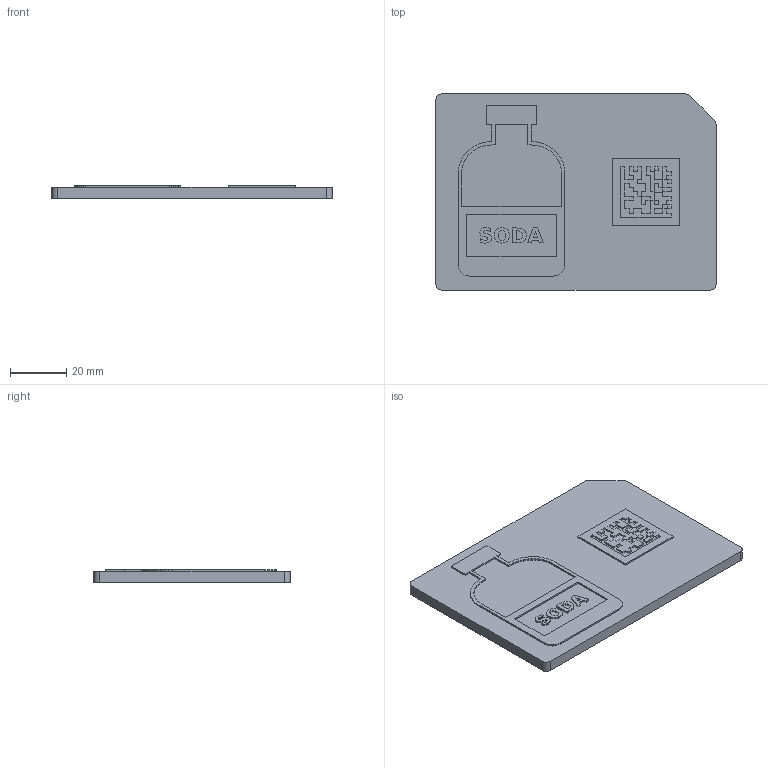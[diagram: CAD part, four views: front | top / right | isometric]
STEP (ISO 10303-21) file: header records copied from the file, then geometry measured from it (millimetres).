
FILE_DESCRIPTION(('Open CASCADE Model'),'2;1');
FILE_NAME('Open CASCADE Shape Model','2026-10-14T18:09:57',('Author'),( 'Open CASCADE'),'Open CASCADE STEP processor 7.9','Open CASCADE 7.9' ,'Unknown');
FILE_SCHEMA(('AUTOMOTIVE_DESIGN { 1 0 10303 214 1 1 1 1 }'));
Length unit declared in the file: millimetre
Products named in the file (3): SN-4804; SN-4804_base_dark; SN-4804_features_red
Assembly tree (2 placements, depth 2):
  SN-4804
    SN-4804_base_dark
    SN-4804_features_red
Bounding box: 100 x 70 x 4.6 mm (x, y, z)
Volume: 28471.7 mm3; surface area: 19373.8 mm2
Topology: 7 solids, 7 shells, 731 faces, 2094 edges, 1396 vertices
Faces by surface type: plane 726, cylinder 5
Entity records: 50057 total; most frequent: CARTESIAN_POINT 9112, DIRECTION 7070, LINE 5574, VECTOR 5574, ORIENTED_EDGE 4188, PCURVE 4188, DEFINITIONAL_REPRESENTATION 4188, EDGE_CURVE 2094
